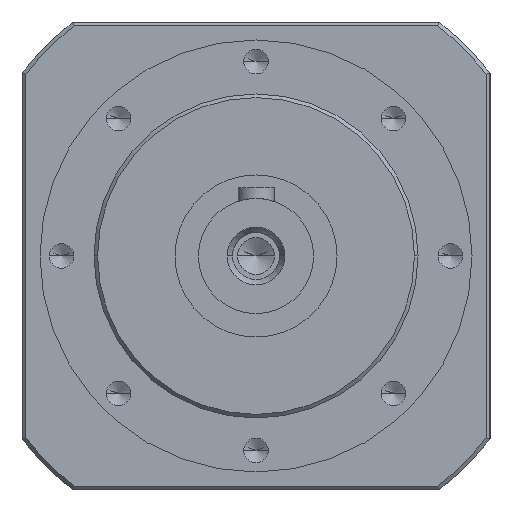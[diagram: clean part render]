
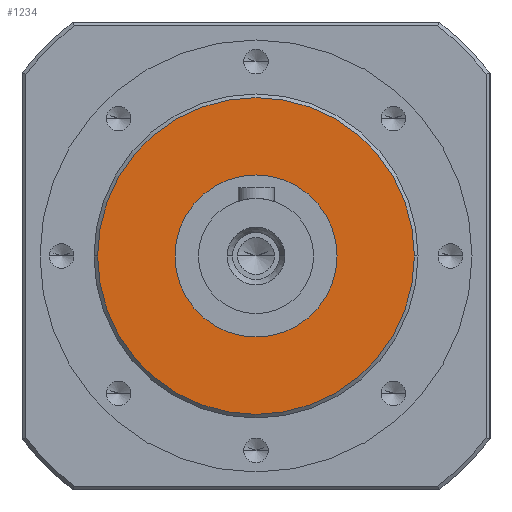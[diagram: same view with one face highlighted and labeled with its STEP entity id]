
A CAD part, left-side view. The second image highlights one B-rep face of the part: STEP entity #1234.
In plain terms, the highlighted planar face has unit normal (-1, 0, 0) as drawn and (0, 1, 0) by its records, which use the part's own axes.
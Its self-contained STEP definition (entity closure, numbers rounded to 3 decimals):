
#762 = ORIENTED_EDGE ( 'NONE', *, *, #4999, .F. ) ;
#764 = ORIENTED_EDGE ( 'NONE', *, *, #796, .F. ) ;
#778 = ORIENTED_EDGE ( 'NONE', *, *, #1274, .T. ) ;
#783 = EDGE_CURVE ( 'NONE', #1266, #1239, #6852, .T. ) ;
#784 = EDGE_LOOP ( 'NONE', ( #762, #764 ) ) ;
#796 = EDGE_CURVE ( 'NONE', #4987, #4977, #6509, .T. ) ;
#1233 = EDGE_LOOP ( 'NONE', ( #1258, #778 ) ) ;
#1234 = ADVANCED_FACE ( 'NONE', ( #2238, #2214 ), #2172, .T. ) ;
#1239 = VERTEX_POINT ( 'NONE', #2303 ) ;
#1258 = ORIENTED_EDGE ( 'NONE', *, *, #783, .T. ) ;
#1266 = VERTEX_POINT ( 'NONE', #2315 ) ;
#1274 = EDGE_CURVE ( 'NONE', #1239, #1266, #2368, .T. ) ;
#2172 = PLANE ( 'NONE',  #2182 ) ;
#2182 = AXIS2_PLACEMENT_3D ( 'NONE', #2242, #2241, #2240 ) ;
#2214 = FACE_BOUND ( 'NONE', #784, .T. ) ;
#2238 = FACE_OUTER_BOUND ( 'NONE', #1233, .T. ) ;
#2240 = DIRECTION ( 'NONE',  ( 0., 0., 1. ) ) ;
#2241 = DIRECTION ( 'NONE',  ( 0., 1., 0. ) ) ;
#2242 = CARTESIAN_POINT ( 'NONE',  ( 0., 67., 0. ) ) ;
#2303 = CARTESIAN_POINT ( 'NONE',  ( 0., 67., 44. ) ) ;
#2315 = CARTESIAN_POINT ( 'NONE',  ( 0., 67., -44. ) ) ;
#2354 = AXIS2_PLACEMENT_3D ( 'NONE', #2399, #2421, #2363 ) ;
#2363 = DIRECTION ( 'NONE',  ( 0., 0., 1. ) ) ;
#2368 = CIRCLE ( 'NONE', #2354, 44. ) ;
#2399 = CARTESIAN_POINT ( 'NONE',  ( 0., 67., 0. ) ) ;
#2421 = DIRECTION ( 'NONE',  ( 0., 1., 0. ) ) ;
#4977 = VERTEX_POINT ( 'NONE', #7177 ) ;
#4987 = VERTEX_POINT ( 'NONE', #7224 ) ;
#4999 = EDGE_CURVE ( 'NONE', #4977, #4987, #7282, .T. ) ;
#6473 = DIRECTION ( 'NONE',  ( 0., 1., 0. ) ) ;
#6482 = DIRECTION ( 'NONE',  ( 0., 0., 1. ) ) ;
#6490 = CARTESIAN_POINT ( 'NONE',  ( 0., 67., 0. ) ) ;
#6505 = AXIS2_PLACEMENT_3D ( 'NONE', #6490, #6473, #6482 ) ;
#6509 = CIRCLE ( 'NONE', #6505, 22.5 ) ;
#6792 = DIRECTION ( 'NONE',  ( 0., 0., 1. ) ) ;
#6793 = DIRECTION ( 'NONE',  ( 0., 1., 0. ) ) ;
#6794 = CARTESIAN_POINT ( 'NONE',  ( 0., 67., 0. ) ) ;
#6795 = AXIS2_PLACEMENT_3D ( 'NONE', #6794, #6793, #6792 ) ;
#6852 = CIRCLE ( 'NONE', #6795, 44. ) ;
#7177 = CARTESIAN_POINT ( 'NONE',  ( 0., 67., 22.5 ) ) ;
#7224 = CARTESIAN_POINT ( 'NONE',  ( 0., 67., -22.5 ) ) ;
#7249 = AXIS2_PLACEMENT_3D ( 'NONE', #7254, #7317, #7342 ) ;
#7254 = CARTESIAN_POINT ( 'NONE',  ( 0., 67., 0. ) ) ;
#7282 = CIRCLE ( 'NONE', #7249, 22.5 ) ;
#7317 = DIRECTION ( 'NONE',  ( 0., 1., 0. ) ) ;
#7342 = DIRECTION ( 'NONE',  ( 0., 0., 1. ) ) ;
